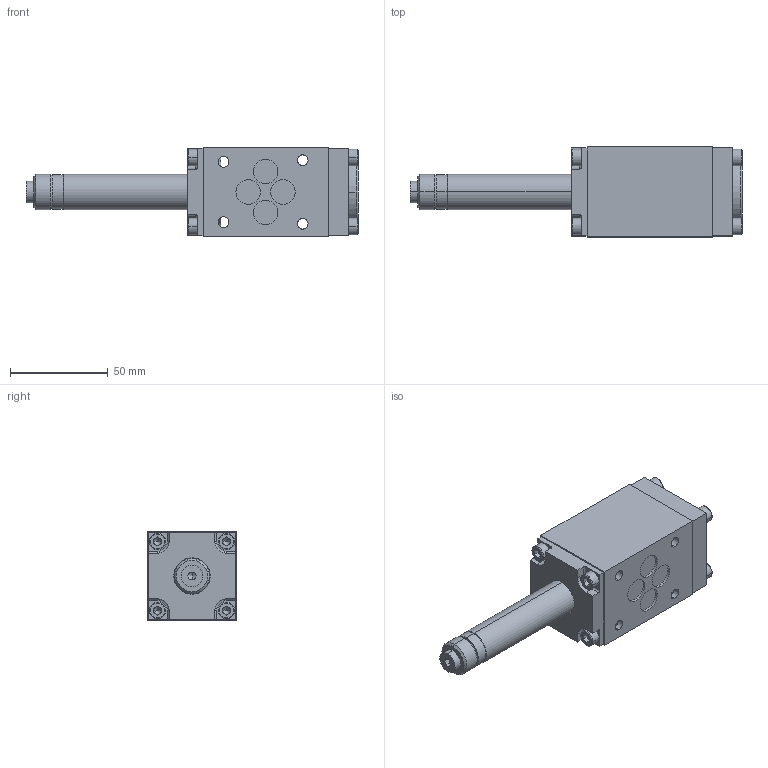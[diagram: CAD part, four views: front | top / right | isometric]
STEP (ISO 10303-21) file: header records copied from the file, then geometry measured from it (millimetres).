
FILE_DESCRIPTION (( 'STEP AP214' ), '1' );
FILE_NAME ('AEXD32061a.STEP', '2017-03-02T07:01:15', ( '' ), ( '' ), 'SwSTEP 2.0', 'SolidWorks 2016', '' );
FILE_SCHEMA (( 'AUTOMOTIVE_DESIGN' ));
Length unit declared in the file: millimetre
Products named in the file (1): AEXD32061a
Bounding box: 169.9 x 46 x 46 mm (x, y, z)
Volume: 189374.1 mm3; surface area: 32524.2 mm2
Topology: 1 solids, 6 shells, 698 faces, 1786 edges, 1128 vertices
Faces by surface type: plane 466, cylinder 129, cone 59, torus 38, bspline 6
Entity records: 29419 total; most frequent: CARTESIAN_POINT 4719, DIRECTION 3540, ORIENTED_EDGE 3512, EDGE_CURVE 1756, LINE 1246, VECTOR 1246, AXIS2_PLACEMENT_3D 1147, VERTEX_POINT 1128
